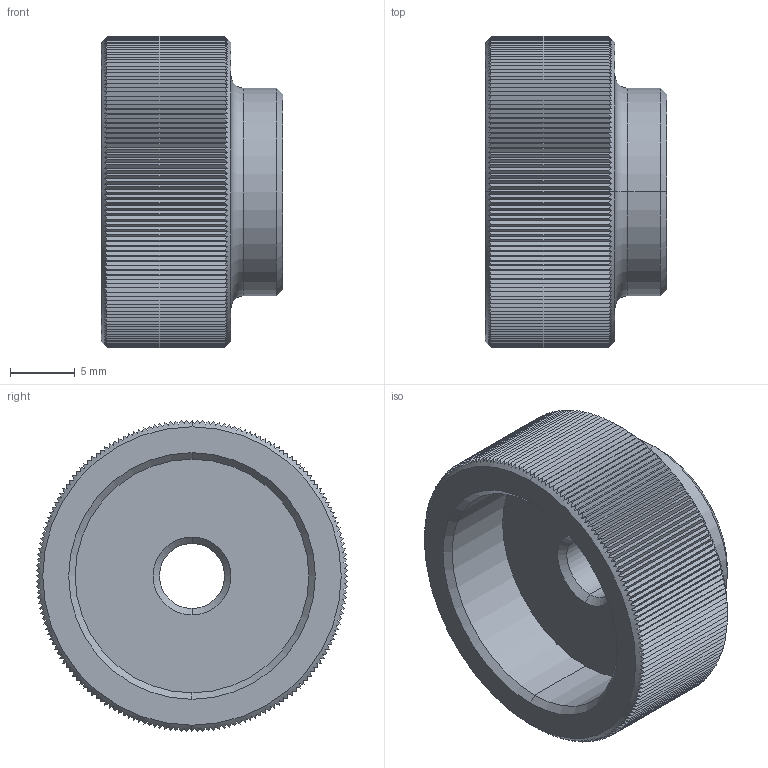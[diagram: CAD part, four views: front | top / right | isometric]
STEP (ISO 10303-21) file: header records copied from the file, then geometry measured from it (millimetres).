
FILE_DESCRIPTION (( 'STEP AP203' ), '1' );
FILE_NAME ('37160.W0006.step', '2011-09-15T08:09:57', ( 'Wixroyd' ), ( 'Wixroyd' ), 'SwSTEP 2.0', 'SolidWorks 2009', '' );
FILE_SCHEMA (( 'CONFIG_CONTROL_DESIGN' ));
Length unit declared in the file: millimetre
Products named in the file (1): 37160.W0006
Bounding box: 14 x 24 x 24 mm (x, y, z)
Volume: 3535.3 mm3; surface area: 2555.6 mm2
Topology: 1 solids, 1 shells, 382 faces, 1122 edges, 744 vertices
Faces by surface type: plane 364, cone 10, cylinder 6, torus 2
Entity records: 13237 total; most frequent: CARTESIAN_POINT 4409, ORIENTED_EDGE 2244, DIRECTION 1194, EDGE_CURVE 1122, VERTEX_POINT 744, B_SPLINE_CURVE_WITH_KNOTS 720, AXIS2_PLACEMENT_3D 409, EDGE_LOOP 386
